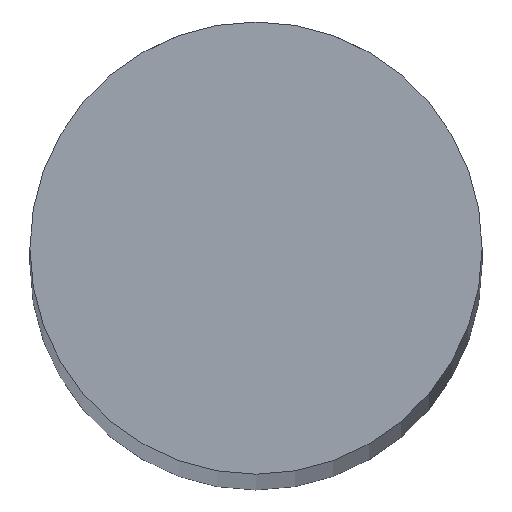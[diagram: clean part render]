
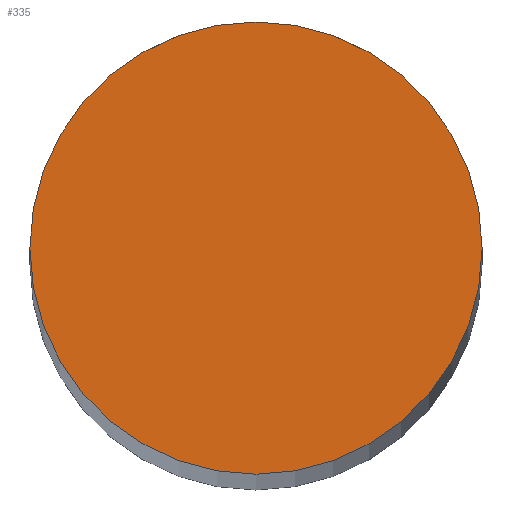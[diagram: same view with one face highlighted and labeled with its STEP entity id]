
A CAD part, top view. The second image highlights one B-rep face of the part: STEP entity #335.
In plain terms, the highlighted planar face has unit normal (0, 0, 1).
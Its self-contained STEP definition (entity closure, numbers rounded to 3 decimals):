
#24 = VERTEX_POINT('',#25);
#25 = CARTESIAN_POINT('',(4.,0.,80.));
#32 = CYLINDRICAL_SURFACE('',#33,4.);
#33 = AXIS2_PLACEMENT_3D('',#34,#35,#36);
#34 = CARTESIAN_POINT('',(0.,0.,-80.));
#35 = DIRECTION('',(-0.,-0.,-1.));
#36 = DIRECTION('',(1.,0.,0.));
#79 = EDGE_CURVE('',#24,#24,#80,.T.);
#80 = SURFACE_CURVE('',#81,(#86,#93),.PCURVE_S1.);
#81 = CIRCLE('',#82,4.);
#82 = AXIS2_PLACEMENT_3D('',#83,#84,#85);
#83 = CARTESIAN_POINT('',(0.,0.,80.));
#84 = DIRECTION('',(0.,0.,1.));
#85 = DIRECTION('',(1.,0.,0.));
#86 = PCURVE('',#32,#87);
#87 = DEFINITIONAL_REPRESENTATION('',(#88),#92);
#88 = LINE('',#89,#90);
#89 = CARTESIAN_POINT('',(-0.,-160.));
#90 = VECTOR('',#91,1.);
#91 = DIRECTION('',(-1.,0.));
#92 = ( GEOMETRIC_REPRESENTATION_CONTEXT(2) 
PARAMETRIC_REPRESENTATION_CONTEXT() REPRESENTATION_CONTEXT('2D SPACE',''
  ) );
#93 = PCURVE('',#94,#99);
#94 = PLANE('',#95);
#95 = AXIS2_PLACEMENT_3D('',#96,#97,#98);
#96 = CARTESIAN_POINT('',(0.,0.,80.));
#97 = DIRECTION('',(0.,0.,1.));
#98 = DIRECTION('',(1.,0.,-0.));
#99 = DEFINITIONAL_REPRESENTATION('',(#100),#104);
#100 = CIRCLE('',#101,4.);
#101 = AXIS2_PLACEMENT_2D('',#102,#103);
#102 = CARTESIAN_POINT('',(0.,0.));
#103 = DIRECTION('',(1.,0.));
#104 = ( GEOMETRIC_REPRESENTATION_CONTEXT(2) 
PARAMETRIC_REPRESENTATION_CONTEXT() REPRESENTATION_CONTEXT('2D SPACE',''
  ) );
#335 = ADVANCED_FACE('',(#336),#94,.T.);
#336 = FACE_BOUND('',#337,.T.);
#337 = EDGE_LOOP('',(#338));
#338 = ORIENTED_EDGE('',*,*,#79,.T.);
